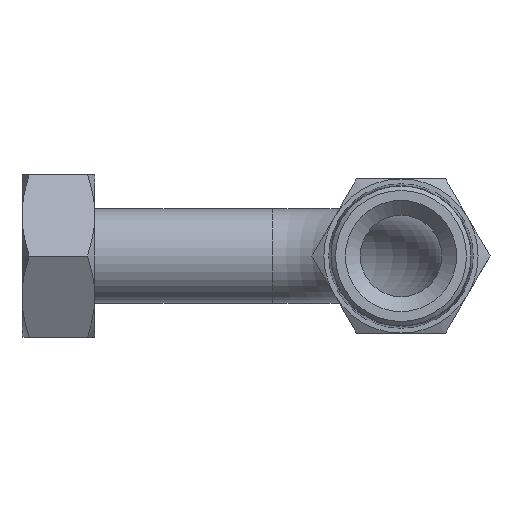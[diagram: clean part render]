
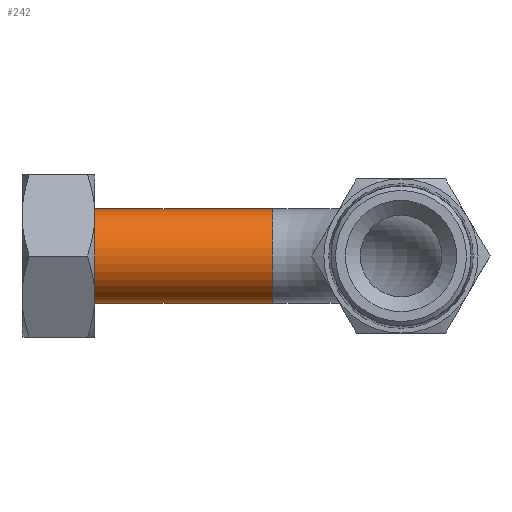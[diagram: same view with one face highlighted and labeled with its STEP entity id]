
A CAD part, front view. The second image highlights one B-rep face of the part: STEP entity #242.
In plain terms, the highlighted cylindrical face has radius 11 mm (diameter 22 mm), a full revolution.
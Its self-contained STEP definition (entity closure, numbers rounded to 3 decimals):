
#211=CARTESIAN_POINT('',(42.,11.0,0.));
#212=VERTEX_POINT('',#211);
#213=CARTESIAN_POINT('',(42.,0.0,0.0));
#214=DIRECTION('',(-1.0,0.0,0.0));
#215=DIRECTION('',(0.0,-1.0,0.0));
#216=AXIS2_PLACEMENT_3D('',#213,#214,#215);
#217=CIRCLE('',#216,11.0);
#218=EDGE_CURVE('',#212,#212,#217,.T.);
#223=CARTESIAN_POINT('',(0.0,0.0,0.0));
#224=DIRECTION('',(1.0,0.0,0.0));
#225=DIRECTION('',(0.0,-1.0,0.0));
#226=AXIS2_PLACEMENT_3D('',#223,#224,#225);
#227=CYLINDRICAL_SURFACE('',#226,11.0);
#228=ORIENTED_EDGE('',*,*,#218,.T.);
#229=EDGE_LOOP('',(#228));
#230=FACE_OUTER_BOUND('',#229,.T.);
#231=CARTESIAN_POINT('',(0.0,11.0,0.));
#232=VERTEX_POINT('',#231);
#233=CARTESIAN_POINT('',(0.0,0.0,0.0));
#234=DIRECTION('',(-1.0,0.0,0.0));
#235=DIRECTION('',(0.0,-1.0,0.0));
#236=AXIS2_PLACEMENT_3D('',#233,#234,#235);
#237=CIRCLE('',#236,11.0);
#238=EDGE_CURVE('',#232,#232,#237,.T.);
#239=ORIENTED_EDGE('',*,*,#238,.F.);
#240=EDGE_LOOP('',(#239));
#241=FACE_BOUND('',#240,.T.);
#242=ADVANCED_FACE('',(#230,#241),#227,.T.);
